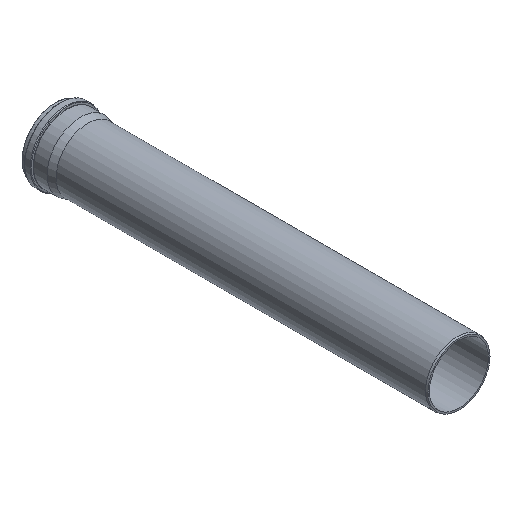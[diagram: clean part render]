
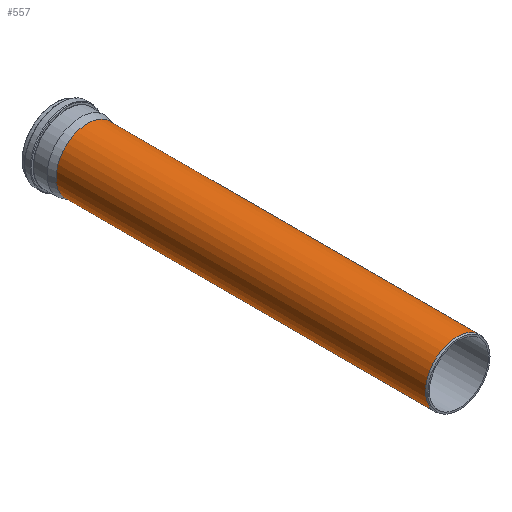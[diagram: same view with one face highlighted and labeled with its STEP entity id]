
A CAD part, isometric view. The second image highlights one B-rep face of the part: STEP entity #557.
In plain terms, the highlighted cylindrical face has radius 250 mm (diameter 500 mm), a full revolution.
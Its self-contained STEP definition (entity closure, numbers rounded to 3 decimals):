
#54=FACE_OUTER_BOUND('',#87,.T.);
#87=EDGE_LOOP('',(#430,#431,#432,#433));
#117=LINE('',#1006,#135);
#135=VECTOR('',#799,250.);
#174=CIRCLE('',#641,250.);
#175=CIRCLE('',#643,250.);
#239=VERTEX_POINT('',#1000);
#240=VERTEX_POINT('',#1004);
#307=EDGE_CURVE('',#239,#239,#174,.T.);
#309=EDGE_CURVE('',#240,#240,#175,.T.);
#310=EDGE_CURVE('',#240,#239,#117,.T.);
#430=ORIENTED_EDGE('',*,*,#309,.F.);
#431=ORIENTED_EDGE('',*,*,#310,.T.);
#432=ORIENTED_EDGE('',*,*,#307,.T.);
#433=ORIENTED_EDGE('',*,*,#310,.F.);
#540=CYLINDRICAL_SURFACE('',#642,250.);
#557=ADVANCED_FACE('',(#54),#540,.T.);
#641=AXIS2_PLACEMENT_3D('',#1001,#792,#793);
#642=AXIS2_PLACEMENT_3D('',#1003,#795,#796);
#643=AXIS2_PLACEMENT_3D('',#1005,#797,#798);
#792=DIRECTION('center_axis',(0.,-1.,0.));
#793=DIRECTION('ref_axis',(1.,0.,0.));
#795=DIRECTION('center_axis',(0.,-1.,0.));
#796=DIRECTION('ref_axis',(-1.,0.,0.));
#797=DIRECTION('center_axis',(0.,-1.,0.));
#798=DIRECTION('ref_axis',(1.,0.,0.));
#799=DIRECTION('',(0.,1.,0.));
#1000=CARTESIAN_POINT('',(250.,2944.019,0.));
#1001=CARTESIAN_POINT('Origin',(0.,2944.019,0.));
#1003=CARTESIAN_POINT('Origin',(0.,1479.51,0.));
#1004=CARTESIAN_POINT('',(250.,15.,0.));
#1005=CARTESIAN_POINT('Origin',(0.,15.,0.));
#1006=CARTESIAN_POINT('',(250.,1479.51,0.));
